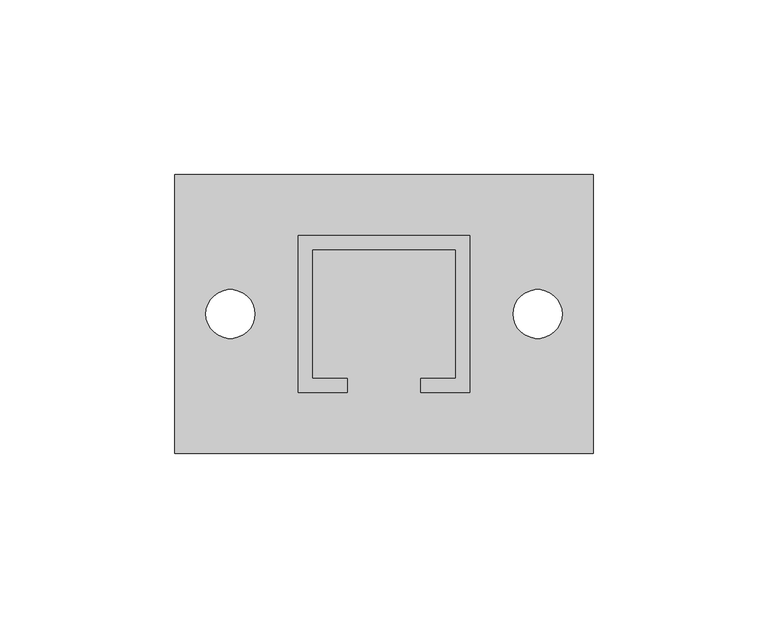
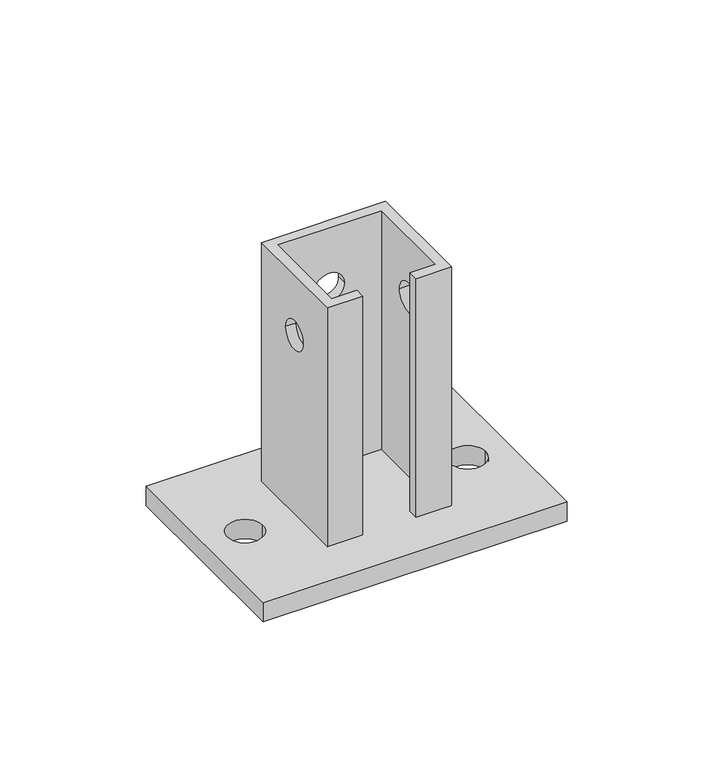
"""IFC4 building model written with IfcOpenShell, lengths in millimetres: proxy geometry, K41-3S_Tape head-Basorfix : Basorfix K41-3S EZ."""

from ifc_helpers import new_model, si_unit, point, frame, frame_2d, origin, origin_with_axes, place, context, project, spatial, polyline, circle_curve, trimmed, segment, composite_curve, outline, extrude, source, transform, mapped, element, save
from ifc_brep_helpers import plane_surface, revolved_surface, advanced_brep


def generic_models_29aa744f(model_context):
    return source(origin(), model_context, "Body", "SolidModel", [
        extrude(outline(polyline([(60.0, 40.0), (60.0, -40.0), (-60.0, -40.0), (-60.0, 40.0), (60.0, 40.0)]), holes=[composite_curve([segment(trimmed(circle_curve(frame_2d((-44.0, 0.0)), 7.0), [point((-51.0, 0.0))], [point((-37.0, 0.0))], True, "CARTESIAN"), True, "CONTINUOUS"), segment(trimmed(circle_curve(frame_2d((-44.0, 0.0)), 7.0), [point((-37.0, 0.0))], [point((-51.0, 0.0))], True, "CARTESIAN"), True, "CONTINUOUS")], self_intersect=False), composite_curve([segment(trimmed(circle_curve(frame_2d((44.0, 0.0)), 7.0), [point((37.0, 0.0))], [point((51.0, 0.0))], True, "CARTESIAN"), True, "CONTINUOUS"), segment(trimmed(circle_curve(frame_2d((44.0, 0.0)), 7.0), [point((51.0, 0.0))], [point((37.0, 0.0))], True, "CARTESIAN"), True, "CONTINUOUS")], self_intersect=False)]), origin_with_axes(), (0.0, 0.0, 1.0), 8.0),
        advanced_brep(
        [(-10.5, -22.5, 108.0), (-10.5, -18.5, 108.0), (-20.5, -18.5, 108.0), (-20.5, 18.5, 108.0), (20.5, 18.5, 108.0), (20.5, -18.5, 108.0), (10.5, -18.5, 108.0), (10.5, -22.5, 108.0), (24.5, -22.5, 108.0), (24.5, 22.5, 108.0), (-24.5, 22.5, 108.0), (-24.5, -22.5, 108.0), (-10.5, -22.5, 8.0), (-24.5, -22.5, 8.0), (-24.5, 22.5, 8.0), (24.5, 22.5, 8.0), (24.5, -22.5, 8.0), (10.5, -22.5, 8.0), (10.5, -18.5, 8.0), (20.5, -18.5, 8.0), (20.5, 18.5, 8.0), (-20.5, 18.5, 8.0), (-20.5, -18.5, 8.0), (-10.5, -18.5, 8.0), (6.0, 18.5, 83.0), (-6.0, 18.5, 83.0), (24.5, 6.0, 83.0), (24.5, -6.0, 83.0), (-6.0, 22.5, 83.0), (6.0, 22.5, 83.0), (-24.5, -6.0, 83.0), (-24.5, 6.0, 83.0), (-20.5, -6.0, 83.0), (-20.5, 6.0, 83.0), (20.5, -6.0, 83.0), (20.5, 6.0, 83.0)],
        [
            (0, 1),
            (1, 2),
            (2, 3),
            (3, 4),
            (4, 5),
            (5, 6),
            (6, 7),
            (7, 8),
            (8, 9),
            (9, 10),
            (10, 11),
            (11, 0),
            (12, 13),
            (13, 14),
            (14, 15),
            (15, 16),
            (16, 17),
            (17, 18),
            (18, 19),
            (19, 20),
            (20, 21),
            (21, 22),
            (22, 23),
            (23, 12),
            (3, 21),
            (20, 4),
            (24, 25, circle_curve(frame((0.0, 18.5, 83.0), z_axis=(0.0, 1.0, 0.0), x_axis=(1.0, 0.0, 0.0)), 6.0)),
            (25, 24, circle_curve(frame((0.0, 18.5, 83.0), z_axis=(0.0, 1.0, 0.0), x_axis=(1.0, 0.0, 0.0)), 6.0)),
            (7, 17),
            (16, 8),
            (15, 9),
            (26, 27, circle_curve(frame((24.5, 0.0, 83.0), z_axis=(-1.0, 0.0, 0.0), x_axis=(0.0, 1.0, 0.0)), 6.0)),
            (27, 26, circle_curve(frame((24.5, 0.0, 83.0), z_axis=(-1.0, 0.0, 0.0), x_axis=(0.0, 1.0, 0.0)), 6.0)),
            (14, 10),
            (28, 29, circle_curve(frame((0.0, 22.5, 83.0), z_axis=(0.0, -1.0, 0.0), x_axis=(1.0, 0.0, 0.0)), 6.0)),
            (29, 28, circle_curve(frame((0.0, 22.5, 83.0), z_axis=(0.0, -1.0, 0.0), x_axis=(1.0, 0.0, 0.0)), 6.0)),
            (13, 11),
            (30, 31, circle_curve(frame((-24.5, 0.0, 83.0), z_axis=(1.0, 0.0, 0.0), x_axis=(0.0, 1.0, 0.0)), 6.0)),
            (31, 30, circle_curve(frame((-24.5, 0.0, 83.0), z_axis=(1.0, 0.0, 0.0), x_axis=(0.0, 1.0, 0.0)), 6.0)),
            (12, 0),
            (30, 32),
            (32, 33, circle_curve(frame((-20.5, 0.0, 83.0), z_axis=(1.0, 0.0, 0.0), x_axis=(0.0, 1.0, 0.0)), 6.0)),
            (33, 31),
            (34, 27),
            (26, 35),
            (35, 34, circle_curve(frame((20.5, 0.0, 83.0), z_axis=(-1.0, 0.0, 0.0), x_axis=(0.0, 1.0, 0.0)), 6.0)),
            (33, 32, circle_curve(frame((-20.5, 0.0, 83.0), z_axis=(1.0, 0.0, 0.0), x_axis=(0.0, 1.0, 0.0)), 6.0)),
            (34, 35, circle_curve(frame((20.5, 0.0, 83.0), z_axis=(-1.0, 0.0, 0.0), x_axis=(0.0, 1.0, 0.0)), 6.0)),
            (23, 1),
            (22, 2),
            (19, 5),
            (18, 6),
            (24, 29),
            (28, 25),
        ],
        [
            plane_surface(frame((-10.5, -18.5, 108.0), z_axis=(0.0, 0.0, 1.0), x_axis=(0.0, 1.0, 0.0))),
            plane_surface(frame((-10.5, -18.5, 8.0), z_axis=(0.0, 0.0, -1.0), x_axis=(0.0, -1.0, 0.0))),
            plane_surface(frame((-20.5, 18.5, 108.0), z_axis=(0.0, -1.0, 0.0), x_axis=(0.0, 0.0, -1.0))),
            plane_surface(frame((10.5, -22.5, 108.0), z_axis=(0.0, -1.0, 0.0), x_axis=(0.0, 0.0, -1.0))),
            plane_surface(frame((24.5, -22.5, 108.0), z_axis=(1.0, 0.0, 0.0), x_axis=(0.0, 0.0, -1.0))),
            plane_surface(frame((24.5, 22.5, 108.0), z_axis=(0.0, 1.0, 0.0), x_axis=(0.0, 0.0, -1.0))),
            plane_surface(frame((-24.5, 22.5, 108.0), z_axis=(-1.0, 0.0, 0.0), x_axis=(0.0, 0.0, -1.0))),
            plane_surface(frame((-24.5, -22.5, 108.0), z_axis=(0.0, -1.0, 0.0), x_axis=(0.0, 0.0, -1.0))),
            revolved_surface(polyline([(-20.5, 6.0, 83.0), (-24.5, 6.0, 83.0)]), (-25.0, 0.0, 83.0), (1.0, 0.0, 0.0)),
            revolved_surface(polyline([(24.5, 6.0, 83.0), (20.5, 6.0, 83.0)]), (-25.0, 0.0, 83.0), (1.0, 0.0, 0.0)),
            plane_surface(frame((-10.5, -22.5, 108.0), z_axis=(1.0, 0.0, 0.0), x_axis=(0.0, 0.0, -1.0))),
            plane_surface(frame((-10.5, -18.5, 108.0), z_axis=(0.0, 1.0, 0.0), x_axis=(0.0, 0.0, -1.0))),
            plane_surface(frame((-20.5, -18.5, 108.0), z_axis=(1.0, 0.0, 0.0), x_axis=(0.0, 0.0, -1.0))),
            plane_surface(frame((20.5, 18.5, 108.0), z_axis=(-1.0, 0.0, 0.0), x_axis=(0.0, 0.0, -1.0))),
            plane_surface(frame((20.5, -18.5, 108.0), z_axis=(0.0, 1.0, 0.0), x_axis=(0.0, 0.0, -1.0))),
            plane_surface(frame((10.5, -18.5, 108.0), z_axis=(-1.0, 0.0, 0.0), x_axis=(0.0, 0.0, -1.0))),
            revolved_surface(polyline([(6.0, 18.5, 83.0), (6.0, 22.5, 83.0)]), (0.0, 22.5, 83.0), (0.0, -1.0, 0.0)),
        ],
        [
            (0, [[1, 2, 3, 4, 5, 6, 7, 8, 9, 10, 11, 12]]),
            (1, [[13, 14, 15, 16, 17, 18, 19, 20, 21, 22, 23, 24]]),
            (2, [[-4, 25, -21, 26], [27, 28]]),
            (3, [[-8, 29, -17, 30]]),
            (4, [[-9, -30, -16, 31], [32, 33]]),
            (5, [[-10, -31, -15, 34], [35, 36]]),
            (6, [[-11, -34, -14, 37], [38, 39]]),
            (7, [[-12, -37, -13, 40]]),
            (8, [[41, 42, 43, -38]]),
            (9, [[44, -32, 45, 46]]),
            (8, [[-41, -39, -43, 47]]),
            (9, [[-44, 48, -45, -33]]),
            (10, [[-1, -40, -24, 49]]),
            (11, [[-2, -49, -23, 50]]),
            (12, [[-3, -50, -22, -25], [-42, -47]]),
            (13, [[-5, -26, -20, 51], [-46, -48]]),
            (14, [[-6, -51, -19, 52]]),
            (15, [[-7, -52, -18, -29]]),
            (16, [[53, -35, 54, -27]]),
            (16, [[-53, -28, -54, -36]]),
        ],
    ),
    ])


if __name__ == "__main__":
    model = new_model("IFC4")
    model_context = context("Model", 3, world=origin())
    ifc_project = project(units=[si_unit("LENGTHUNIT", "METRE", prefix="MILLI")], contexts=[model_context])
    site = spatial("IfcSite", under=ifc_project)
    building = spatial("IfcBuilding", under=site)
    placement = place(None, origin())
    generic_models_shape = generic_models_29aa744f(model_context)
    element("IfcBuildingElementProxy", 1, Name="K41-3S_Tape head-Basorfix : Basorfix K41-3S EZ", ObjectType="K41-3S_Tape head-Basorfix : Basorfix K41-3S EZ", at=placement, inside=building, context=model_context, shape_type="MappedRepresentation", body=[
        mapped(generic_models_shape, transform((0.0, 0.0, 0.0), x_axis=(1.0, 0.0, 0.0), y_axis=(0.0, 1.0, 0.0), z_axis=(0.0, 0.0, 1.0))),
    ])
    save(model, "model.ifc")
